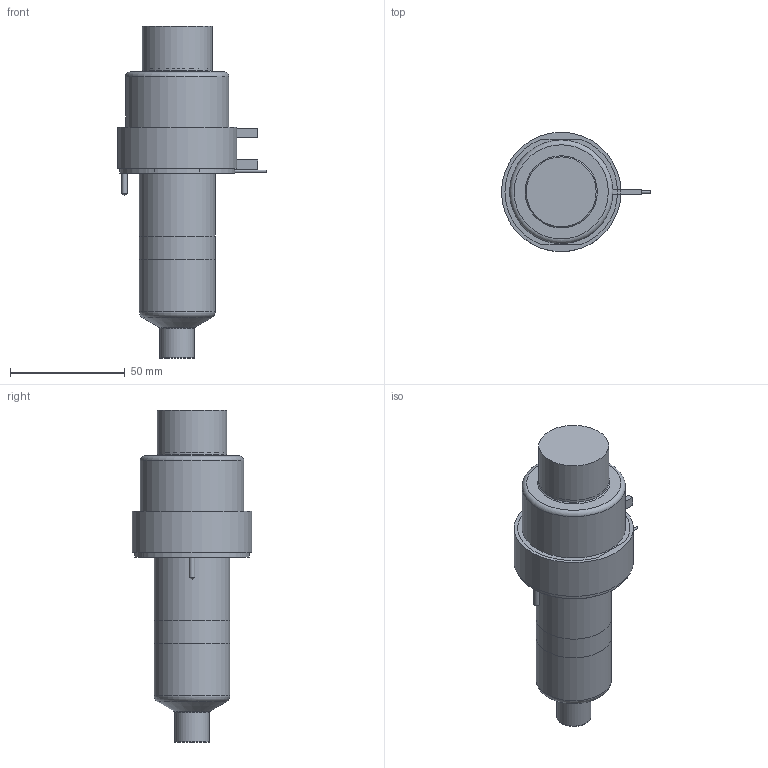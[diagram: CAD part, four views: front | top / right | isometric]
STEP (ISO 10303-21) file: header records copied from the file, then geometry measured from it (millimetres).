
FILE_DESCRIPTION(/* description */ (''),/* implementation_level */ '2;1');
FILE_NAME(/* name */ 'SXTSN-SXISN-SXOSN19075_250C_b',/* time_stamp */ '2007-01-24T17:17:52+13:00',/* author */ (''),/* organization */ (''),/* preprocessor_version */ 'ST-DEVELOPER v9',/* originating_system */ 'UGS - NX 4.0',/* authorisation */ '');
FILE_SCHEMA (('CONFIG_CONTROL_DESIGN'));
Length unit declared in the file: millimetre
Products named in the file (1): SXTSN-SXISN-SXOSN19075_250C_b
Bounding box: 64.85 x 52 x 144.46 mm (x, y, z)
Volume: 268663.6 mm3; surface area: 40487.5 mm2
Topology: 7 solids, 7 shells, 92 faces, 180 edges, 116 vertices
Faces by surface type: plane 45, cylinder 28, cone 9, torus 9, bspline 1
Full cylindrical faces by diameter (mm): 1 x3, 1.2 x1, 2.5 x2, 8 x1, 14.61 x1, 15.01 x2, 18.3 x1, 28.6 x1, 30 x1, 30.4 x1, 33 x2, 38.1 x1, 45 x1, 50 x1, 52 x1
Entity records: 2250 total; most frequent: CARTESIAN_POINT 438, DIRECTION 382, ORIENTED_EDGE 268, AXIS2_PLACEMENT_3D 166, EDGE_LOOP 142, EDGE_CURVE 134, VERTEX_POINT 107, ADVANCED_FACE 92
